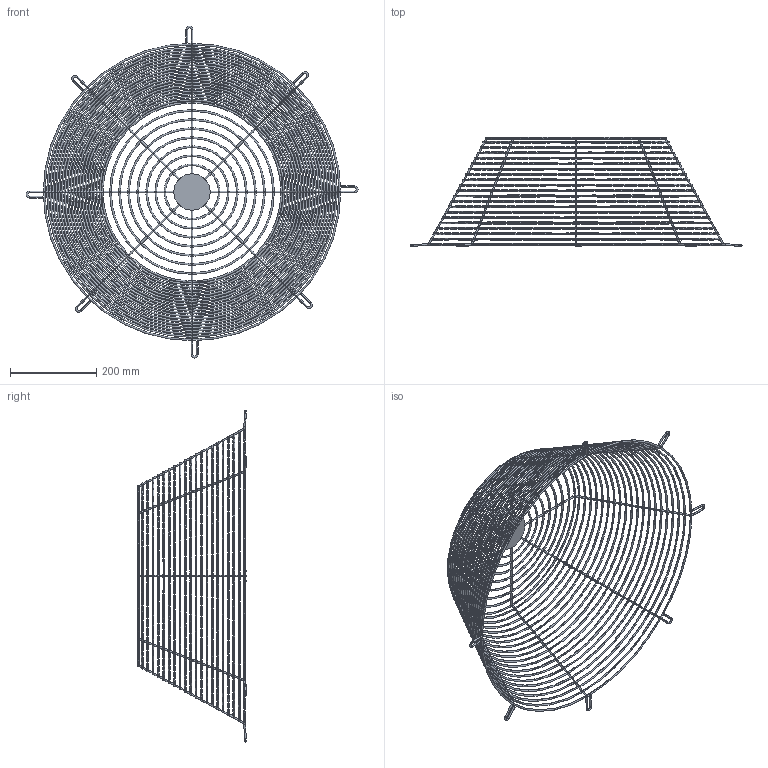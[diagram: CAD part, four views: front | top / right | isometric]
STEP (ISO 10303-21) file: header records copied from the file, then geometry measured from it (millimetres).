
FILE_DESCRIPTION(('STEP AP214'),'1');
FILE_NAME('accessory_5138830400.stp','2017-10-09T10:18:04',('TraceParts'),('TraceParts S.A.'),'Spatial InterOp 3D',' ',' ');
FILE_SCHEMA(('automotive_design'));
Length unit declared in the file: millimetre
Products named in the file (1): accessory_5138830400
Bounding box: 770 x 252 x 770 mm (x, y, z)
Volume: 593517.3 mm3; surface area: 577341.4 mm2
Topology: 1 solids, 1 shells, 364 faces, 2258 edges, 1422 vertices
Faces by surface type: torus 176, cylinder 122, plane 50, sphere 16
Entity records: 48168 total; most frequent: CARTESIAN_POINT 29885, ORIENTED_EDGE 4452, DIRECTION 2250, EDGE_CURVE 2226, VERTEX_POINT 1422, B_SPLINE_CURVE_WITH_KNOTS 1284, AXIS2_PLACEMENT_3D 943, CIRCLE 562
